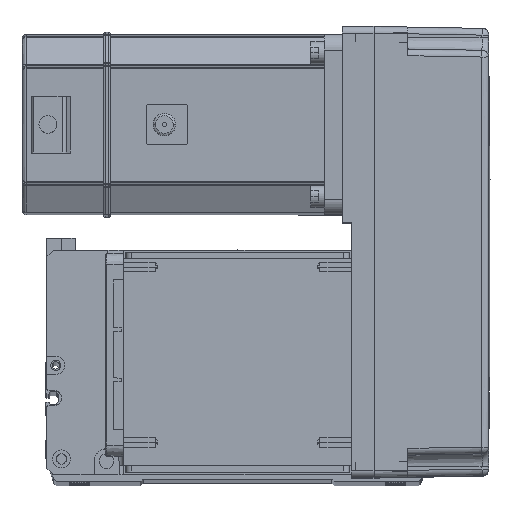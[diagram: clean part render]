
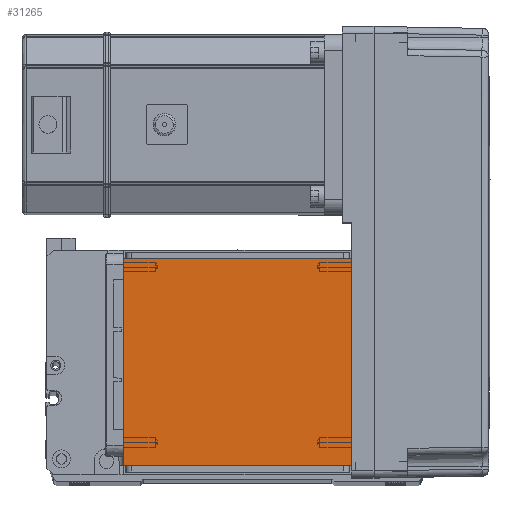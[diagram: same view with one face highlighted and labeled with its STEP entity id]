
A CAD part, top view. The second image highlights one B-rep face of the part: STEP entity #31265.
In plain terms, the highlighted planar face has unit normal (0, 0, 1).
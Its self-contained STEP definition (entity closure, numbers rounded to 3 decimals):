
#3199 = ORIENTED_EDGE ( 'NONE', *, *, #37033, .F. ) ;
#4563 = LINE ( 'NONE', #55463, #57789 ) ;
#6525 = DIRECTION ( 'NONE',  ( 0., -1., 0. ) ) ;
#8825 = CARTESIAN_POINT ( 'NONE',  ( 50.5, 20., 115. ) ) ;
#9389 = EDGE_CURVE ( 'NONE', #19919, #31432, #40471, .T. ) ;
#12414 = DIRECTION ( 'NONE',  ( 1., 0., 0. ) ) ;
#13370 = ORIENTED_EDGE ( 'NONE', *, *, #52569, .T. ) ;
#13680 = PLANE ( 'NONE',  #43756 ) ;
#19919 = VERTEX_POINT ( 'NONE', #42293 ) ;
#20995 = CARTESIAN_POINT ( 'NONE',  ( -70.004, 20., 115. ) ) ;
#22213 = CARTESIAN_POINT ( 'NONE',  ( -70.004, 111.5, 115. ) ) ;
#25217 = CARTESIAN_POINT ( 'NONE',  ( 50.5, 111.5, 115. ) ) ;
#25722 = LINE ( 'NONE', #58010, #37692 ) ;
#25784 = VERTEX_POINT ( 'NONE', #41153 ) ;
#31241 = DIRECTION ( 'NONE',  ( 0., 1., 0. ) ) ;
#31265 = ADVANCED_FACE ( 'NONE', ( #32858 ), #13680, .T. ) ;
#31432 = VERTEX_POINT ( 'NONE', #25217 ) ;
#31884 = EDGE_CURVE ( 'NONE', #45459, #31432, #25722, .T. ) ;
#32858 = FACE_OUTER_BOUND ( 'NONE', #52253, .T. ) ;
#35722 = LINE ( 'NONE', #20995, #43380 ) ;
#37033 = EDGE_CURVE ( 'NONE', #45459, #25784, #35722, .T. ) ;
#37692 = VECTOR ( 'NONE', #31241, 1000. ) ;
#37830 = DIRECTION ( 'NONE',  ( -1., 0., 0. ) ) ;
#38783 = ORIENTED_EDGE ( 'NONE', *, *, #9389, .F. ) ;
#40471 = LINE ( 'NONE', #22213, #51610 ) ;
#40490 = DIRECTION ( 'NONE',  ( 0., 0., 1. ) ) ;
#41153 = CARTESIAN_POINT ( 'NONE',  ( -50.5, 20., 115. ) ) ;
#42293 = CARTESIAN_POINT ( 'NONE',  ( -50.5, 111.5, 115. ) ) ;
#43380 = VECTOR ( 'NONE', #37830, 1000. ) ;
#43756 = AXIS2_PLACEMENT_3D ( 'NONE', #48886, #40490, #44419 ) ;
#44419 = DIRECTION ( 'NONE',  ( 1., 0., 0. ) ) ;
#45109 = ORIENTED_EDGE ( 'NONE', *, *, #31884, .T. ) ;
#45459 = VERTEX_POINT ( 'NONE', #8825 ) ;
#48886 = CARTESIAN_POINT ( 'NONE',  ( 0., 0., 115. ) ) ;
#51610 = VECTOR ( 'NONE', #12414, 1000. ) ;
#52253 = EDGE_LOOP ( 'NONE', ( #38783, #13370, #3199, #45109 ) ) ;
#52569 = EDGE_CURVE ( 'NONE', #19919, #25784, #4563, .T. ) ;
#55463 = CARTESIAN_POINT ( 'NONE',  ( -50.5, 122., 115. ) ) ;
#57789 = VECTOR ( 'NONE', #6525, 1000. ) ;
#58010 = CARTESIAN_POINT ( 'NONE',  ( 50.5, 122., 115. ) ) ;
